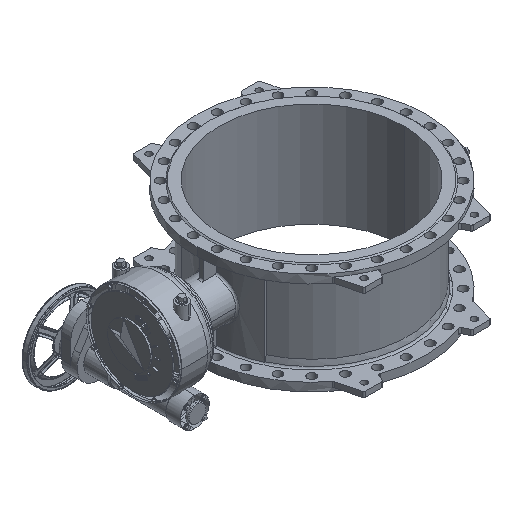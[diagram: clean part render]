
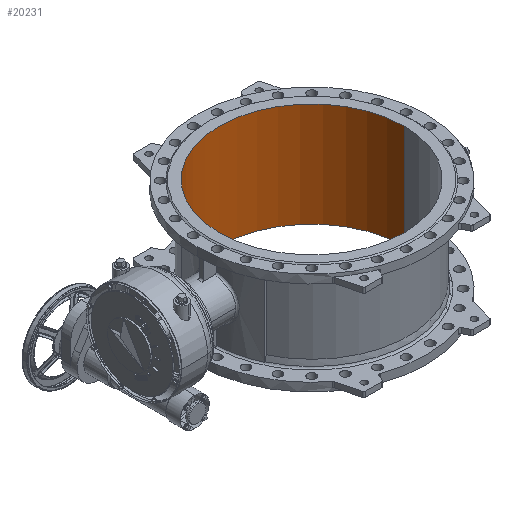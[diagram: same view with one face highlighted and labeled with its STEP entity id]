
A CAD part, isometric view. The second image highlights one B-rep face of the part: STEP entity #20231.
In plain terms, the highlighted cylindrical face has radius 453 mm (diameter 906 mm), a partial arc.
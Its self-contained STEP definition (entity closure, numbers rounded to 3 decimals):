
#6986 = AXIS2_PLACEMENT_3D ( 'NONE', #7030, #7029, #7028 ) ;
#7028 = DIRECTION ( 'NONE',  ( -1., 0., 0. ) ) ;
#7029 = DIRECTION ( 'NONE',  ( 0., 0., -1. ) ) ;
#7030 = CARTESIAN_POINT ( 'NONE',  ( 0., 0., 255. ) ) ;
#7031 = CIRCLE ( 'NONE', #6986, 453. ) ;
#20154 = EDGE_LOOP ( 'NONE', ( #20476, #20262, #20260, #20264 ) ) ;
#20231 = ADVANCED_FACE ( 'NONE', ( #32440 ), #32609, .F. ) ;
#20260 = ORIENTED_EDGE ( 'NONE', *, *, #45600, .T. ) ;
#20262 = ORIENTED_EDGE ( 'NONE', *, *, #47127, .F. ) ;
#20264 = ORIENTED_EDGE ( 'NONE', *, *, #47082, .T. ) ;
#20476 = ORIENTED_EDGE ( 'NONE', *, *, #45694, .F. ) ;
#32295 = AXIS2_PLACEMENT_3D ( 'NONE', #32377, #32384, #32375 ) ;
#32375 = DIRECTION ( 'NONE',  ( -1., 0., 0. ) ) ;
#32377 = CARTESIAN_POINT ( 'NONE',  ( 0., 0., 255. ) ) ;
#32384 = DIRECTION ( 'NONE',  ( 0., 0., -1. ) ) ;
#32440 = FACE_OUTER_BOUND ( 'NONE', #20154, .T. ) ;
#32609 = CYLINDRICAL_SURFACE ( 'NONE', #32295, 453. ) ;
#44905 = DIRECTION ( 'NONE',  ( -1., 0., 0. ) ) ;
#44906 = DIRECTION ( 'NONE',  ( 0., 0., -1. ) ) ;
#44907 = CARTESIAN_POINT ( 'NONE',  ( 0., 0., -255. ) ) ;
#44908 = AXIS2_PLACEMENT_3D ( 'NONE', #44907, #44906, #44905 ) ;
#44909 = CIRCLE ( 'NONE', #44908, 453. ) ;
#45600 = EDGE_CURVE ( 'NONE', #45697, #45622, #51137, .T. ) ;
#45612 = VERTEX_POINT ( 'NONE', #51295 ) ;
#45622 = VERTEX_POINT ( 'NONE', #51290 ) ;
#45694 = EDGE_CURVE ( 'NONE', #45612, #45722, #54394, .T. ) ;
#45697 = VERTEX_POINT ( 'NONE', #54396 ) ;
#45722 = VERTEX_POINT ( 'NONE', #54643 ) ;
#47082 = EDGE_CURVE ( 'NONE', #45622, #45722, #44909, .T. ) ;
#47127 = EDGE_CURVE ( 'NONE', #45697, #45612, #7031, .T. ) ;
#51137 = LINE ( 'NONE', #51231, #51230 ) ;
#51229 = DIRECTION ( 'NONE',  ( 0., 0., -1. ) ) ;
#51230 = VECTOR ( 'NONE', #51229, 1000. ) ;
#51231 = CARTESIAN_POINT ( 'NONE',  ( -453., 0., 255. ) ) ;
#51290 = CARTESIAN_POINT ( 'NONE',  ( -453., 0., -255. ) ) ;
#51295 = CARTESIAN_POINT ( 'NONE',  ( 453., 0., 255. ) ) ;
#54391 = DIRECTION ( 'NONE',  ( 0., 0., -1. ) ) ;
#54392 = VECTOR ( 'NONE', #54391, 1000. ) ;
#54393 = CARTESIAN_POINT ( 'NONE',  ( 453., 0., 255. ) ) ;
#54394 = LINE ( 'NONE', #54393, #54392 ) ;
#54396 = CARTESIAN_POINT ( 'NONE',  ( -453., 0., 255. ) ) ;
#54643 = CARTESIAN_POINT ( 'NONE',  ( 453., 0., -255. ) ) ;
